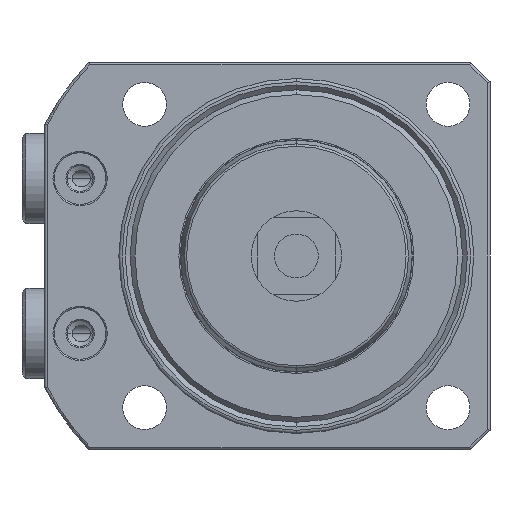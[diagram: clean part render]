
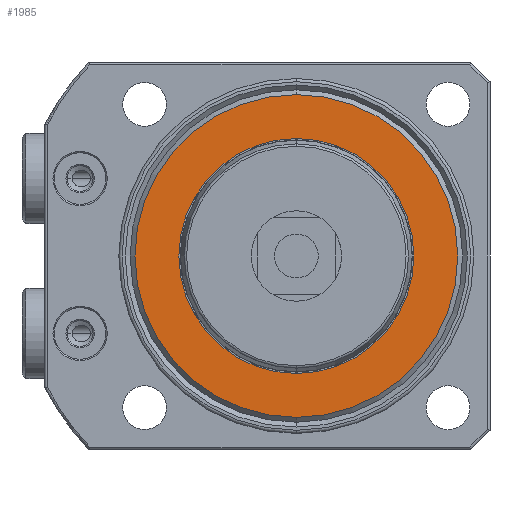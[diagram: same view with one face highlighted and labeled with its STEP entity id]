
A CAD part, front view. The second image highlights one B-rep face of the part: STEP entity #1985.
In plain terms, the highlighted planar face has unit normal (0, -1, 0) as drawn and (1, 0, 0) by its records, which use the part's own axes.
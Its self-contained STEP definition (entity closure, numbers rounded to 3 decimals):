
#19 = EDGE_CURVE ( 'NONE', #7809, #3822, #3960, .T. ) ;
#111 = DIRECTION ( 'NONE',  ( 0., 0., 1. ) ) ;
#230 = DIRECTION ( 'NONE',  ( 1., 0., 0. ) ) ;
#243 = ORIENTED_EDGE ( 'NONE', *, *, #4565, .F. ) ;
#426 = EDGE_LOOP ( 'NONE', ( #5329, #8213 ) ) ;
#526 = CARTESIAN_POINT ( 'NONE',  ( 88., 0., 0. ) ) ;
#964 = AXIS2_PLACEMENT_3D ( 'NONE', #7295, #3470, #7942 ) ;
#1167 = DIRECTION ( 'NONE',  ( 0., 0., 1. ) ) ;
#1944 = FACE_OUTER_BOUND ( 'NONE', #6958, .T. ) ;
#1985 = ADVANCED_FACE ( 'NONE', ( #8159, #1944 ), #3398, .T. ) ;
#2193 = AXIS2_PLACEMENT_3D ( 'NONE', #7746, #3926, #111 ) ;
#2194 = AXIS2_PLACEMENT_3D ( 'NONE', #3770, #8235, #4397 ) ;
#3230 = CARTESIAN_POINT ( 'NONE',  ( 88., 0., 18.2 ) ) ;
#3398 = PLANE ( 'NONE',  #3735 ) ;
#3470 = DIRECTION ( 'NONE',  ( -1., 0., 0. ) ) ;
#3735 = AXIS2_PLACEMENT_3D ( 'NONE', #4588, #230, #4679 ) ;
#3770 = CARTESIAN_POINT ( 'NONE',  ( 88., 0., 0. ) ) ;
#3794 = ORIENTED_EDGE ( 'NONE', *, *, #7373, .F. ) ;
#3822 = VERTEX_POINT ( 'NONE', #3230 ) ;
#3926 = DIRECTION ( 'NONE',  ( -1., 0., 0. ) ) ;
#3953 = CIRCLE ( 'NONE', #2194, 25. ) ;
#3960 = CIRCLE ( 'NONE', #2193, 18.2 ) ;
#4208 = AXIS2_PLACEMENT_3D ( 'NONE', #526, #4986, #1167 ) ;
#4397 = DIRECTION ( 'NONE',  ( 0., 0., 1. ) ) ;
#4565 = EDGE_CURVE ( 'NONE', #5980, #4570, #7537, .T. ) ;
#4570 = VERTEX_POINT ( 'NONE', #6906 ) ;
#4588 = CARTESIAN_POINT ( 'NONE',  ( 88., 18.2, 0. ) ) ;
#4679 = DIRECTION ( 'NONE',  ( 0., 0., -1. ) ) ;
#4986 = DIRECTION ( 'NONE',  ( -1., 0., 0. ) ) ;
#5329 = ORIENTED_EDGE ( 'NONE', *, *, #6447, .T. ) ;
#5980 = VERTEX_POINT ( 'NONE', #6713 ) ;
#6447 = EDGE_CURVE ( 'NONE', #3822, #7809, #7208, .T. ) ;
#6713 = CARTESIAN_POINT ( 'NONE',  ( 88., 0., 25. ) ) ;
#6906 = CARTESIAN_POINT ( 'NONE',  ( 88., 0., -25. ) ) ;
#6958 = EDGE_LOOP ( 'NONE', ( #243, #3794 ) ) ;
#7208 = CIRCLE ( 'NONE', #964, 18.2 ) ;
#7295 = CARTESIAN_POINT ( 'NONE',  ( 88., 0., 0. ) ) ;
#7373 = EDGE_CURVE ( 'NONE', #4570, #5980, #3953, .T. ) ;
#7464 = CARTESIAN_POINT ( 'NONE',  ( 88., 0., -18.2 ) ) ;
#7537 = CIRCLE ( 'NONE', #4208, 25. ) ;
#7746 = CARTESIAN_POINT ( 'NONE',  ( 88., 0., 0. ) ) ;
#7809 = VERTEX_POINT ( 'NONE', #7464 ) ;
#7942 = DIRECTION ( 'NONE',  ( 0., 0., 1. ) ) ;
#8159 = FACE_BOUND ( 'NONE', #426, .T. ) ;
#8213 = ORIENTED_EDGE ( 'NONE', *, *, #19, .T. ) ;
#8235 = DIRECTION ( 'NONE',  ( -1., 0., 0. ) ) ;
